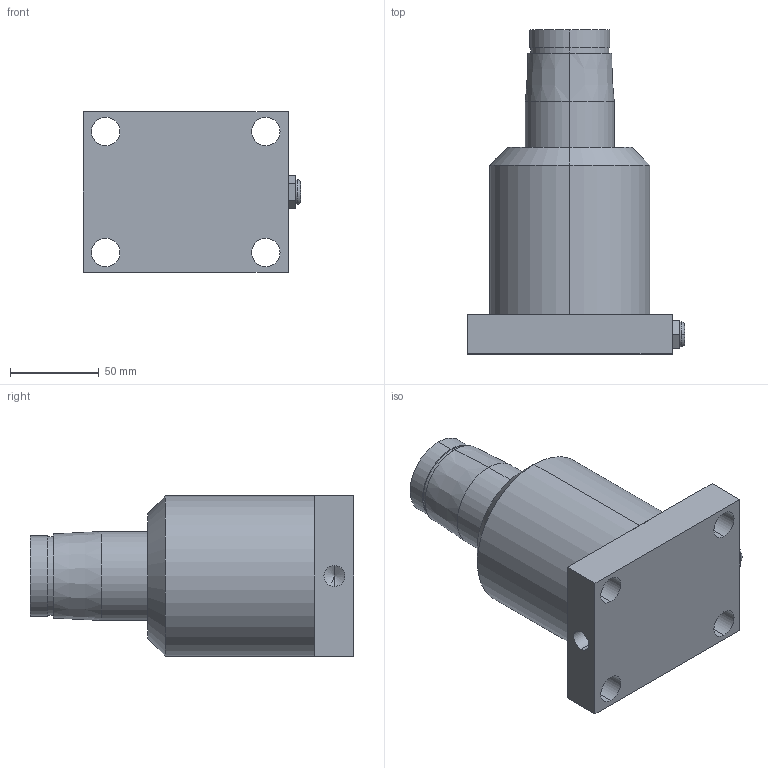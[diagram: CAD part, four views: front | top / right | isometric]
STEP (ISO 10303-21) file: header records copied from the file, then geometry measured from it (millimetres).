
FILE_DESCRIPTION (( 'STEP AP214' ), '1' );
FILE_NAME ('HPS-63SB.STEP', '2021-10-18T08:41:21', ( '' ), ( '' ), 'SwSTEP 2.0', 'SolidWorks 2016', '' );
FILE_SCHEMA (( 'AUTOMOTIVE_DESIGN' ));
Length unit declared in the file: millimetre
Products named in the file (1): HPS-63SB
Bounding box: 122 x 182 x 90 mm (x, y, z)
Volume: 916071.9 mm3; surface area: 68229.9 mm2
Topology: 1 solids, 1 shells, 47 faces, 108 edges, 67 vertices
Faces by surface type: cylinder 20, plane 19, cone 6, torus 2
Entity records: 1414 total; most frequent: DIRECTION 250, CARTESIAN_POINT 221, ORIENTED_EDGE 212, EDGE_CURVE 106, AXIS2_PLACEMENT_3D 96, VERTEX_POINT 67, EDGE_LOOP 61, LINE 58
